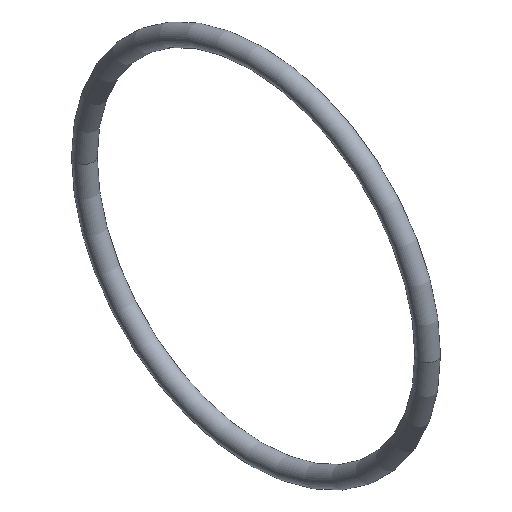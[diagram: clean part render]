
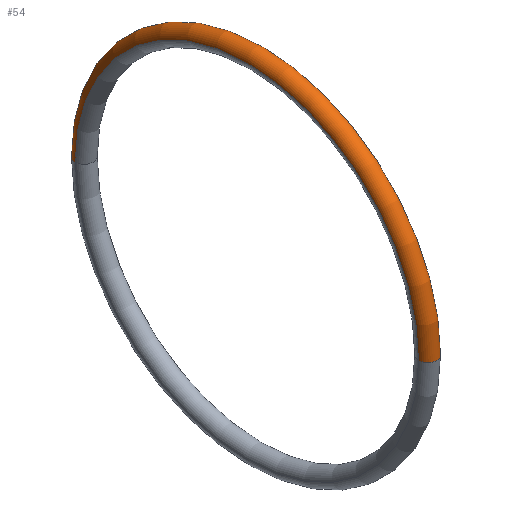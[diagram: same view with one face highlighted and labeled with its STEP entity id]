
A CAD part, isometric view. The second image highlights one B-rep face of the part: STEP entity #54.
In plain terms, the highlighted toroidal (fillet/blend) face has major radius 30.075 mm and minor radius 1.59 mm.
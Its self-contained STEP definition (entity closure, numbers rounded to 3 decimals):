
#54=ADVANCED_FACE('',(#58),#82,.T.);
#58=FACE_OUTER_BOUND('',#62,.F.);
#62=EDGE_LOOP('',(#66,#67,#68,#69));
#66=ORIENTED_EDGE('',*,*,#86,.T.);
#67=ORIENTED_EDGE('',*,*,#89,.F.);
#68=ORIENTED_EDGE('',*,*,#87,.F.);
#69=ORIENTED_EDGE('',*,*,#88,.F.);
#82=TOROIDAL_SURFACE('',#116,30.075,1.59);
#86=EDGE_CURVE('',#105,#104,#94,.T.);
#87=EDGE_CURVE('',#103,#102,#95,.T.);
#88=EDGE_CURVE('',#105,#103,#96,.T.);
#89=EDGE_CURVE('',#102,#104,#97,.T.);
#94=CIRCLE('',#108,30.075);
#95=CIRCLE('',#109,30.075);
#96=CIRCLE('',#110,1.59);
#97=CIRCLE('',#111,1.59);
#102=VERTEX_POINT('',#150);
#103=VERTEX_POINT('',#151);
#104=VERTEX_POINT('',#152);
#105=VERTEX_POINT('',#153);
#108=AXIS2_PLACEMENT_3D('',#154,#123,#124);
#109=AXIS2_PLACEMENT_3D('',#155,#125,#126);
#110=AXIS2_PLACEMENT_3D('',#156,#127,#128);
#111=AXIS2_PLACEMENT_3D('',#157,#129,#130);
#116=AXIS2_PLACEMENT_3D('',#162,#139,#140);
#123=DIRECTION('',(1.,0.,0.));
#124=DIRECTION('',(0.,1.,0.));
#125=DIRECTION('',(1.,0.,0.));
#126=DIRECTION('',(0.,1.,0.));
#127=DIRECTION('',(0.,0.,1.));
#128=DIRECTION('',(1.,0.,0.));
#129=DIRECTION('',(0.,0.,1.));
#130=DIRECTION('',(-1.,0.,0.));
#139=DIRECTION('',(1.,0.,0.));
#140=DIRECTION('',(0.,-1.,0.));
#150=CARTESIAN_POINT('',(-1.59,-30.075,0.));
#151=CARTESIAN_POINT('',(-1.59,30.075,0.));
#152=CARTESIAN_POINT('',(1.59,-30.075,0.));
#153=CARTESIAN_POINT('',(1.59,30.075,0.));
#154=CARTESIAN_POINT('',(1.59,0.,0.));
#155=CARTESIAN_POINT('',(-1.59,0.,0.));
#156=CARTESIAN_POINT('',(0.,30.075,0.));
#157=CARTESIAN_POINT('',(0.,-30.075,0.));
#162=CARTESIAN_POINT('',(0.,0.,0.));
